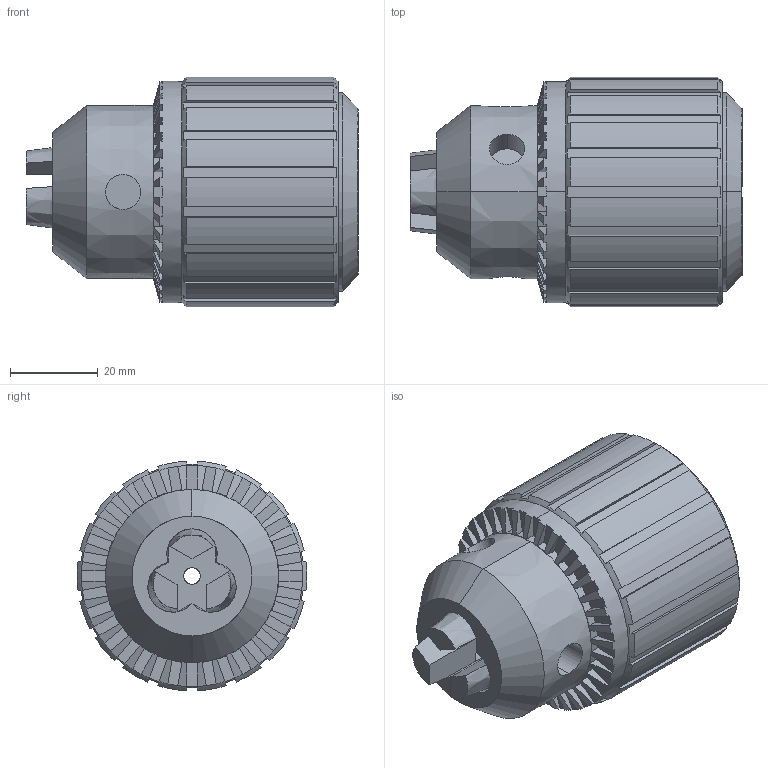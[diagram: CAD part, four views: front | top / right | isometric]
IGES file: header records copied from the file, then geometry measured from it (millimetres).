
Start section: SolidWorks IGES file using analytic representation for surfaces
Global section: file name: R:\Inventor\Kundmodeller Solidworks\Chuckar\040J000107 Keychuck JT2 0-13 mm.IGS; native system: SolidWorks 2008; preprocessor: SolidWorks 2008; author: Johan; date: 090903.151933; units: millimetre
Bounding box: 75.7 x 52.35 x 52.34 mm (x, y, z)
Surface area: 19490.1 mm2 (no closed solid volume)
Topology: 0 solids, 0 shells, 275 faces, 2555 edges, 2555 vertices
Faces by surface type: bspline 221, revolution 54
